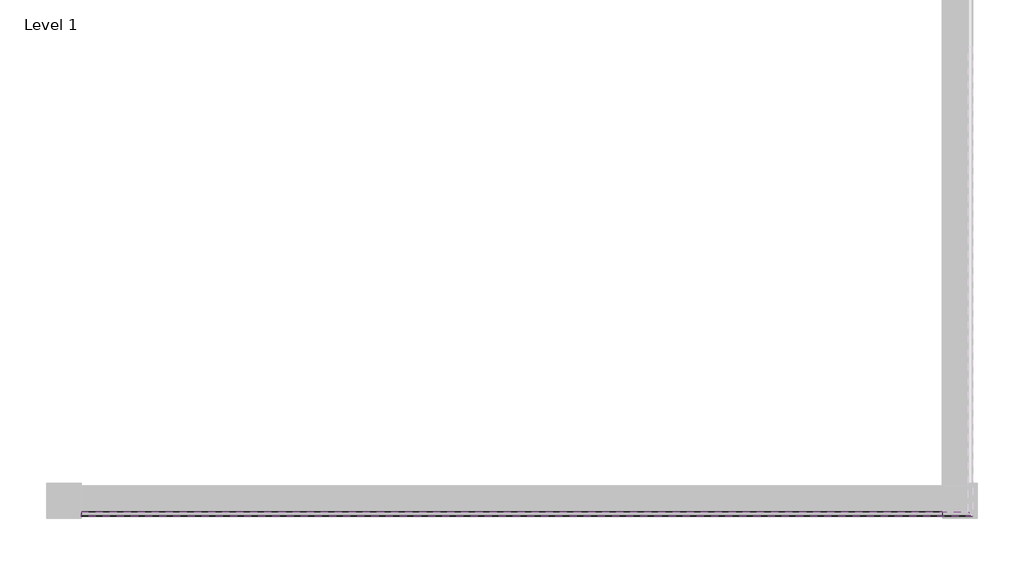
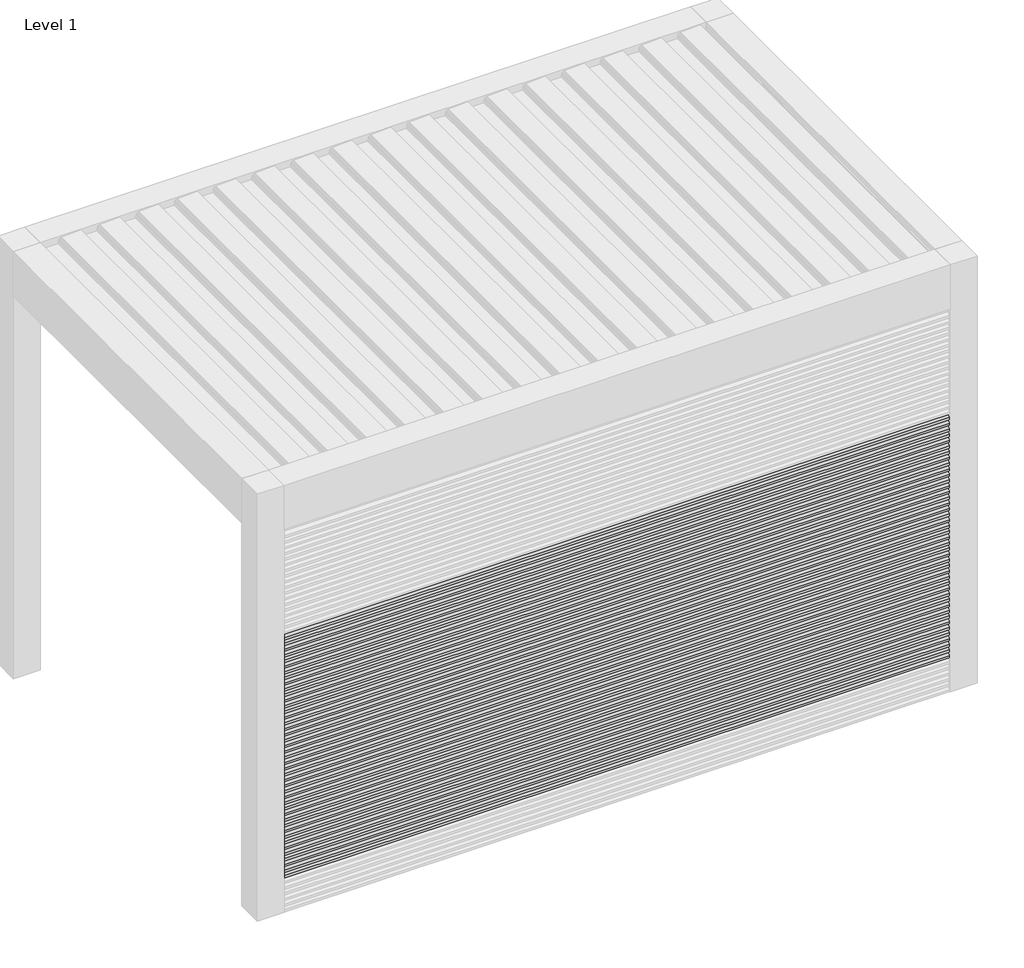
# One storey, part 58 of 69: 43 proxies.
"""IFC4 building model written with IfcOpenShell, lengths in millimetres."""

from ifc_helpers import new_model, si_unit, origin, place, context, project, spatial, faceted_brep, element, save

model = new_model("IFC4")

# Units and contexts
model_context = context("Model", 3, world=origin())
ifc_project = project(units=[si_unit("LENGTHUNIT", "METRE", prefix="MILLI")], contexts=[model_context])

# Site, building, storey
site = spatial("IfcSite", under=ifc_project)
building = spatial("IfcBuilding", under=site)
storey = spatial("IfcBuildingStorey", under=building, Name="Level 1", Elevation=0.0)

# Proxies
placement = place(None, origin())
element("IfcBuildingElementProxy", 1, Name="Wall Sweeps", at=placement, inside=storey, context=model_context, shape_type="Brep", body=[
    faceted_brep([(210955.4900207, 39530.7593685, 1607.7), (210955.4900207, 39530.7593685, 1594.2), (210954.2400207, 39532.0093685, 1594.9216933), (210954.2400207, 39532.0093685, 1606.9782281), (210935.0900207, 39551.1593685, 1618.0345698), (210935.0900207, 39551.1593685, 1631.7), (210936.3400207, 39549.9093685, 1631.7), (210936.3400207, 39549.9093685, 1618.7562577), (207125.5749426, 39530.7593685, 1607.7), (207125.5749426, 39549.9093685, 1618.7562577), (207125.5749426, 39549.9093685, 1631.7), (207125.5749426, 39551.1593685, 1631.7), (207125.5749426, 39551.1593685, 1618.0345698), (207125.5749426, 39532.0093685, 1606.9782281), (207125.5749426, 39532.0093685, 1594.9216933), (207125.5749426, 39530.7593685, 1594.2)], [[[0, 1, 2, 3, 4, 5, 6, 7]], [[8, 9, 10, 11, 12, 13, 14, 15]], [[0, 7, 9, 8]], [[7, 6, 10, 9]], [[6, 5, 11, 10]], [[5, 4, 12, 11]], [[4, 3, 13, 12]], [[3, 2, 14, 13]], [[2, 1, 15, 14]], [[1, 0, 8, 15]]]),
])
element("IfcBuildingElementProxy", 2, Name="Wall Sweeps", at=placement, inside=storey, context=model_context, shape_type="Brep", body=[
    faceted_brep([(210955.4900207, 39530.7593685, 1574.4), (210955.4900207, 39530.7593685, 1560.9), (210954.2400207, 39532.0093685, 1561.6216933), (210954.2400207, 39532.0093685, 1573.6782281), (210935.0900207, 39551.1593685, 1584.7345698), (210935.0900207, 39551.1593685, 1598.4), (210936.3400207, 39549.9093685, 1598.4), (210936.3400207, 39549.9093685, 1585.4562577), (207125.5749426, 39530.7593685, 1574.4), (207125.5749426, 39549.9093685, 1585.4562577), (207125.5749426, 39549.9093685, 1598.4), (207125.5749426, 39551.1593685, 1598.4), (207125.5749426, 39551.1593685, 1584.7345698), (207125.5749426, 39532.0093685, 1573.6782281), (207125.5749426, 39532.0093685, 1561.6216933), (207125.5749426, 39530.7593685, 1560.9)], [[[0, 1, 2, 3, 4, 5, 6, 7]], [[8, 9, 10, 11, 12, 13, 14, 15]], [[0, 7, 9, 8]], [[7, 6, 10, 9]], [[6, 5, 11, 10]], [[5, 4, 12, 11]], [[4, 3, 13, 12]], [[3, 2, 14, 13]], [[2, 1, 15, 14]], [[1, 0, 8, 15]]]),
])
element("IfcBuildingElementProxy", 3, Name="Wall Sweeps", at=placement, inside=storey, context=model_context, shape_type="Brep", body=[
    faceted_brep([(210955.4900207, 39530.7593685, 1541.1), (210955.4900207, 39530.7593685, 1527.6), (210954.2400207, 39532.0093685, 1528.3216933), (210954.2400207, 39532.0093685, 1540.3782281), (210935.0900207, 39551.1593685, 1551.4345698), (210935.0900207, 39551.1593685, 1565.1), (210936.3400207, 39549.9093685, 1565.1), (210936.3400207, 39549.9093685, 1552.1562577), (207125.5749426, 39530.7593685, 1541.1), (207125.5749426, 39549.9093685, 1552.1562577), (207125.5749426, 39549.9093685, 1565.1), (207125.5749426, 39551.1593685, 1565.1), (207125.5749426, 39551.1593685, 1551.4345698), (207125.5749426, 39532.0093685, 1540.3782281), (207125.5749426, 39532.0093685, 1528.3216933), (207125.5749426, 39530.7593685, 1527.6)], [[[0, 1, 2, 3, 4, 5, 6, 7]], [[8, 9, 10, 11, 12, 13, 14, 15]], [[0, 7, 9, 8]], [[7, 6, 10, 9]], [[6, 5, 11, 10]], [[5, 4, 12, 11]], [[4, 3, 13, 12]], [[3, 2, 14, 13]], [[2, 1, 15, 14]], [[1, 0, 8, 15]]]),
])
element("IfcBuildingElementProxy", 4, Name="Wall Sweeps", at=placement, inside=storey, context=model_context, shape_type="Brep", body=[
    faceted_brep([(210955.4900207, 39530.7593685, 1507.8), (210955.4900207, 39530.7593685, 1494.3), (210954.2400207, 39532.0093685, 1495.0216933), (210954.2400207, 39532.0093685, 1507.0782281), (210935.0900207, 39551.1593685, 1518.1345698), (210935.0900207, 39551.1593685, 1531.8), (210936.3400207, 39549.9093685, 1531.8), (210936.3400207, 39549.9093685, 1518.8562577), (207125.5749426, 39530.7593685, 1507.8), (207125.5749426, 39549.9093685, 1518.8562577), (207125.5749426, 39549.9093685, 1531.8), (207125.5749426, 39551.1593685, 1531.8), (207125.5749426, 39551.1593685, 1518.1345698), (207125.5749426, 39532.0093685, 1507.0782281), (207125.5749426, 39532.0093685, 1495.0216933), (207125.5749426, 39530.7593685, 1494.3)], [[[0, 1, 2, 3, 4, 5, 6, 7]], [[8, 9, 10, 11, 12, 13, 14, 15]], [[0, 7, 9, 8]], [[7, 6, 10, 9]], [[6, 5, 11, 10]], [[5, 4, 12, 11]], [[4, 3, 13, 12]], [[3, 2, 14, 13]], [[2, 1, 15, 14]], [[1, 0, 8, 15]]]),
])
element("IfcBuildingElementProxy", 5, Name="Wall Sweeps", at=placement, inside=storey, context=model_context, shape_type="Brep", body=[
    faceted_brep([(210955.4900207, 39530.7593685, 1474.5), (210955.4900207, 39530.7593685, 1461.0), (210954.2400207, 39532.0093685, 1461.7216933), (210954.2400207, 39532.0093685, 1473.7782281), (210935.0900207, 39551.1593685, 1484.8345698), (210935.0900207, 39551.1593685, 1498.5), (210936.3400207, 39549.9093685, 1498.5), (210936.3400207, 39549.9093685, 1485.5562577), (207125.5749426, 39530.7593685, 1474.5), (207125.5749426, 39549.9093685, 1485.5562577), (207125.5749426, 39549.9093685, 1498.5), (207125.5749426, 39551.1593685, 1498.5), (207125.5749426, 39551.1593685, 1484.8345698), (207125.5749426, 39532.0093685, 1473.7782281), (207125.5749426, 39532.0093685, 1461.7216933), (207125.5749426, 39530.7593685, 1461.0)], [[[0, 1, 2, 3, 4, 5, 6, 7]], [[8, 9, 10, 11, 12, 13, 14, 15]], [[0, 7, 9, 8]], [[7, 6, 10, 9]], [[6, 5, 11, 10]], [[5, 4, 12, 11]], [[4, 3, 13, 12]], [[3, 2, 14, 13]], [[2, 1, 15, 14]], [[1, 0, 8, 15]]]),
])
element("IfcBuildingElementProxy", 6, Name="Wall Sweeps", at=placement, inside=storey, context=model_context, shape_type="Brep", body=[
    faceted_brep([(210955.4900207, 39530.7593685, 1441.2), (210955.4900207, 39530.7593685, 1427.7), (210954.2400207, 39532.0093685, 1428.4216933), (210954.2400207, 39532.0093685, 1440.4782281), (210935.0900207, 39551.1593685, 1451.5345698), (210935.0900207, 39551.1593685, 1465.2), (210936.3400207, 39549.9093685, 1465.2), (210936.3400207, 39549.9093685, 1452.2562577), (207125.5749426, 39530.7593685, 1441.2), (207125.5749426, 39549.9093685, 1452.2562577), (207125.5749426, 39549.9093685, 1465.2), (207125.5749426, 39551.1593685, 1465.2), (207125.5749426, 39551.1593685, 1451.5345698), (207125.5749426, 39532.0093685, 1440.4782281), (207125.5749426, 39532.0093685, 1428.4216933), (207125.5749426, 39530.7593685, 1427.7)], [[[0, 1, 2, 3, 4, 5, 6, 7]], [[8, 9, 10, 11, 12, 13, 14, 15]], [[0, 7, 9, 8]], [[7, 6, 10, 9]], [[6, 5, 11, 10]], [[5, 4, 12, 11]], [[4, 3, 13, 12]], [[3, 2, 14, 13]], [[2, 1, 15, 14]], [[1, 0, 8, 15]]]),
])
element("IfcBuildingElementProxy", 7, Name="Wall Sweeps", at=placement, inside=storey, context=model_context, shape_type="Brep", body=[
    faceted_brep([(210955.4900207, 39530.7593685, 1407.9), (210955.4900207, 39530.7593685, 1394.4), (210954.2400207, 39532.0093685, 1395.1216933), (210954.2400207, 39532.0093685, 1407.1782281), (210935.0900207, 39551.1593685, 1418.2345698), (210935.0900207, 39551.1593685, 1431.9), (210936.3400207, 39549.9093685, 1431.9), (210936.3400207, 39549.9093685, 1418.9562577), (207125.5749426, 39530.7593685, 1407.9), (207125.5749426, 39549.9093685, 1418.9562577), (207125.5749426, 39549.9093685, 1431.9), (207125.5749426, 39551.1593685, 1431.9), (207125.5749426, 39551.1593685, 1418.2345698), (207125.5749426, 39532.0093685, 1407.1782281), (207125.5749426, 39532.0093685, 1395.1216933), (207125.5749426, 39530.7593685, 1394.4)], [[[0, 1, 2, 3, 4, 5, 6, 7]], [[8, 9, 10, 11, 12, 13, 14, 15]], [[0, 7, 9, 8]], [[7, 6, 10, 9]], [[6, 5, 11, 10]], [[5, 4, 12, 11]], [[4, 3, 13, 12]], [[3, 2, 14, 13]], [[2, 1, 15, 14]], [[1, 0, 8, 15]]]),
])
element("IfcBuildingElementProxy", 8, Name="Wall Sweeps", at=placement, inside=storey, context=model_context, shape_type="Brep", body=[
    faceted_brep([(210955.4900207, 39530.7593685, 1374.6), (210955.4900207, 39530.7593685, 1361.1), (210954.2400207, 39532.0093685, 1361.8216933), (210954.2400207, 39532.0093685, 1373.8782281), (210935.0900207, 39551.1593685, 1384.9345698), (210935.0900207, 39551.1593685, 1398.6), (210936.3400207, 39549.9093685, 1398.6), (210936.3400207, 39549.9093685, 1385.6562577), (207125.5749426, 39530.7593685, 1374.6), (207125.5749426, 39549.9093685, 1385.6562577), (207125.5749426, 39549.9093685, 1398.6), (207125.5749426, 39551.1593685, 1398.6), (207125.5749426, 39551.1593685, 1384.9345698), (207125.5749426, 39532.0093685, 1373.8782281), (207125.5749426, 39532.0093685, 1361.8216933), (207125.5749426, 39530.7593685, 1361.1)], [[[0, 1, 2, 3, 4, 5, 6, 7]], [[8, 9, 10, 11, 12, 13, 14, 15]], [[0, 7, 9, 8]], [[7, 6, 10, 9]], [[6, 5, 11, 10]], [[5, 4, 12, 11]], [[4, 3, 13, 12]], [[3, 2, 14, 13]], [[2, 1, 15, 14]], [[1, 0, 8, 15]]]),
])
element("IfcBuildingElementProxy", 9, Name="Wall Sweeps", at=placement, inside=storey, context=model_context, shape_type="Brep", body=[
    faceted_brep([(210955.4900207, 39530.7593685, 1341.3), (210955.4900207, 39530.7593685, 1327.8), (210954.2400207, 39532.0093685, 1328.5216933), (210954.2400207, 39532.0093685, 1340.5782281), (210935.0900207, 39551.1593685, 1351.6345698), (210935.0900207, 39551.1593685, 1365.3), (210936.3400207, 39549.9093685, 1365.3), (210936.3400207, 39549.9093685, 1352.3562577), (207125.5749426, 39530.7593685, 1341.3), (207125.5749426, 39549.9093685, 1352.3562577), (207125.5749426, 39549.9093685, 1365.3), (207125.5749426, 39551.1593685, 1365.3), (207125.5749426, 39551.1593685, 1351.6345698), (207125.5749426, 39532.0093685, 1340.5782281), (207125.5749426, 39532.0093685, 1328.5216933), (207125.5749426, 39530.7593685, 1327.8)], [[[0, 1, 2, 3, 4, 5, 6, 7]], [[8, 9, 10, 11, 12, 13, 14, 15]], [[0, 7, 9, 8]], [[7, 6, 10, 9]], [[6, 5, 11, 10]], [[5, 4, 12, 11]], [[4, 3, 13, 12]], [[3, 2, 14, 13]], [[2, 1, 15, 14]], [[1, 0, 8, 15]]]),
])
element("IfcBuildingElementProxy", 10, Name="Wall Sweeps", at=placement, inside=storey, context=model_context, shape_type="Brep", body=[
    faceted_brep([(210955.4900207, 39530.7593685, 1308.0), (210955.4900207, 39530.7593685, 1294.5), (210954.2400207, 39532.0093685, 1295.2216933), (210954.2400207, 39532.0093685, 1307.2782281), (210935.0900207, 39551.1593685, 1318.3345698), (210935.0900207, 39551.1593685, 1332.0), (210936.3400207, 39549.9093685, 1332.0), (210936.3400207, 39549.9093685, 1319.0562577), (207125.5749426, 39530.7593685, 1308.0), (207125.5749426, 39549.9093685, 1319.0562577), (207125.5749426, 39549.9093685, 1332.0), (207125.5749426, 39551.1593685, 1332.0), (207125.5749426, 39551.1593685, 1318.3345698), (207125.5749426, 39532.0093685, 1307.2782281), (207125.5749426, 39532.0093685, 1295.2216933), (207125.5749426, 39530.7593685, 1294.5)], [[[0, 1, 2, 3, 4, 5, 6, 7]], [[8, 9, 10, 11, 12, 13, 14, 15]], [[0, 7, 9, 8]], [[7, 6, 10, 9]], [[6, 5, 11, 10]], [[5, 4, 12, 11]], [[4, 3, 13, 12]], [[3, 2, 14, 13]], [[2, 1, 15, 14]], [[1, 0, 8, 15]]]),
])
element("IfcBuildingElementProxy", 11, Name="Wall Sweeps", at=placement, inside=storey, context=model_context, shape_type="Brep", body=[
    faceted_brep([(210955.4900207, 39530.7593685, 1274.7), (210955.4900207, 39530.7593685, 1261.2), (210954.2400207, 39532.0093685, 1261.9216933), (210954.2400207, 39532.0093685, 1273.9782281), (210935.0900207, 39551.1593685, 1285.0345698), (210935.0900207, 39551.1593685, 1298.7), (210936.3400207, 39549.9093685, 1298.7), (210936.3400207, 39549.9093685, 1285.7562577), (207125.5749426, 39530.7593685, 1274.7), (207125.5749426, 39549.9093685, 1285.7562577), (207125.5749426, 39549.9093685, 1298.7), (207125.5749426, 39551.1593685, 1298.7), (207125.5749426, 39551.1593685, 1285.0345698), (207125.5749426, 39532.0093685, 1273.9782281), (207125.5749426, 39532.0093685, 1261.9216933), (207125.5749426, 39530.7593685, 1261.2)], [[[0, 1, 2, 3, 4, 5, 6, 7]], [[8, 9, 10, 11, 12, 13, 14, 15]], [[0, 7, 9, 8]], [[7, 6, 10, 9]], [[6, 5, 11, 10]], [[5, 4, 12, 11]], [[4, 3, 13, 12]], [[3, 2, 14, 13]], [[2, 1, 15, 14]], [[1, 0, 8, 15]]]),
])
element("IfcBuildingElementProxy", 12, Name="Wall Sweeps", at=placement, inside=storey, context=model_context, shape_type="Brep", body=[
    faceted_brep([(210955.4900207, 39530.7593685, 1241.4), (210955.4900207, 39530.7593685, 1227.9), (210954.2400207, 39532.0093685, 1228.6216933), (210954.2400207, 39532.0093685, 1240.6782281), (210935.0900207, 39551.1593685, 1251.7345698), (210935.0900207, 39551.1593685, 1265.4), (210936.3400207, 39549.9093685, 1265.4), (210936.3400207, 39549.9093685, 1252.4562577), (207125.5749426, 39530.7593685, 1241.4), (207125.5749426, 39549.9093685, 1252.4562577), (207125.5749426, 39549.9093685, 1265.4), (207125.5749426, 39551.1593685, 1265.4), (207125.5749426, 39551.1593685, 1251.7345698), (207125.5749426, 39532.0093685, 1240.6782281), (207125.5749426, 39532.0093685, 1228.6216933), (207125.5749426, 39530.7593685, 1227.9)], [[[0, 1, 2, 3, 4, 5, 6, 7]], [[8, 9, 10, 11, 12, 13, 14, 15]], [[0, 7, 9, 8]], [[7, 6, 10, 9]], [[6, 5, 11, 10]], [[5, 4, 12, 11]], [[4, 3, 13, 12]], [[3, 2, 14, 13]], [[2, 1, 15, 14]], [[1, 0, 8, 15]]]),
])
element("IfcBuildingElementProxy", 13, Name="Wall Sweeps", at=placement, inside=storey, context=model_context, shape_type="Brep", body=[
    faceted_brep([(210955.4900207, 39530.7593685, 1208.1), (210955.4900207, 39530.7593685, 1194.6), (210954.2400207, 39532.0093685, 1195.3216933), (210954.2400207, 39532.0093685, 1207.3782281), (210935.0900207, 39551.1593685, 1218.4345698), (210935.0900207, 39551.1593685, 1232.1), (210936.3400207, 39549.9093685, 1232.1), (210936.3400207, 39549.9093685, 1219.1562577), (207125.5749426, 39530.7593685, 1208.1), (207125.5749426, 39549.9093685, 1219.1562577), (207125.5749426, 39549.9093685, 1232.1), (207125.5749426, 39551.1593685, 1232.1), (207125.5749426, 39551.1593685, 1218.4345698), (207125.5749426, 39532.0093685, 1207.3782281), (207125.5749426, 39532.0093685, 1195.3216933), (207125.5749426, 39530.7593685, 1194.6)], [[[0, 1, 2, 3, 4, 5, 6, 7]], [[8, 9, 10, 11, 12, 13, 14, 15]], [[0, 7, 9, 8]], [[7, 6, 10, 9]], [[6, 5, 11, 10]], [[5, 4, 12, 11]], [[4, 3, 13, 12]], [[3, 2, 14, 13]], [[2, 1, 15, 14]], [[1, 0, 8, 15]]]),
])
element("IfcBuildingElementProxy", 14, Name="Wall Sweeps", at=placement, inside=storey, context=model_context, shape_type="Brep", body=[
    faceted_brep([(210955.4900207, 39530.7593685, 1174.8), (210955.4900207, 39530.7593685, 1161.3), (210954.2400207, 39532.0093685, 1162.0216933), (210954.2400207, 39532.0093685, 1174.0782281), (210935.0900207, 39551.1593685, 1185.1345698), (210935.0900207, 39551.1593685, 1198.8), (210936.3400207, 39549.9093685, 1198.8), (210936.3400207, 39549.9093685, 1185.8562577), (207125.5749426, 39530.7593685, 1174.8), (207125.5749426, 39549.9093685, 1185.8562577), (207125.5749426, 39549.9093685, 1198.8), (207125.5749426, 39551.1593685, 1198.8), (207125.5749426, 39551.1593685, 1185.1345698), (207125.5749426, 39532.0093685, 1174.0782281), (207125.5749426, 39532.0093685, 1162.0216933), (207125.5749426, 39530.7593685, 1161.3)], [[[0, 1, 2, 3, 4, 5, 6, 7]], [[8, 9, 10, 11, 12, 13, 14, 15]], [[0, 7, 9, 8]], [[7, 6, 10, 9]], [[6, 5, 11, 10]], [[5, 4, 12, 11]], [[4, 3, 13, 12]], [[3, 2, 14, 13]], [[2, 1, 15, 14]], [[1, 0, 8, 15]]]),
])
element("IfcBuildingElementProxy", 15, Name="Wall Sweeps", at=placement, inside=storey, context=model_context, shape_type="Brep", body=[
    faceted_brep([(210955.4900207, 39530.7593685, 1141.5), (210955.4900207, 39530.7593685, 1128.0), (210954.2400207, 39532.0093685, 1128.7216933), (210954.2400207, 39532.0093685, 1140.7782281), (210935.0900207, 39551.1593685, 1151.8345698), (210935.0900207, 39551.1593685, 1165.5), (210936.3400207, 39549.9093685, 1165.5), (210936.3400207, 39549.9093685, 1152.5562577), (207125.5749426, 39530.7593685, 1141.5), (207125.5749426, 39549.9093685, 1152.5562577), (207125.5749426, 39549.9093685, 1165.5), (207125.5749426, 39551.1593685, 1165.5), (207125.5749426, 39551.1593685, 1151.8345698), (207125.5749426, 39532.0093685, 1140.7782281), (207125.5749426, 39532.0093685, 1128.7216933), (207125.5749426, 39530.7593685, 1128.0)], [[[0, 1, 2, 3, 4, 5, 6, 7]], [[8, 9, 10, 11, 12, 13, 14, 15]], [[0, 7, 9, 8]], [[7, 6, 10, 9]], [[6, 5, 11, 10]], [[5, 4, 12, 11]], [[4, 3, 13, 12]], [[3, 2, 14, 13]], [[2, 1, 15, 14]], [[1, 0, 8, 15]]]),
])
element("IfcBuildingElementProxy", 16, Name="Wall Sweeps", at=placement, inside=storey, context=model_context, shape_type="Brep", body=[
    faceted_brep([(210955.4900207, 39530.7593685, 1108.2), (210955.4900207, 39530.7593685, 1094.7), (210954.2400207, 39532.0093685, 1095.4216933), (210954.2400207, 39532.0093685, 1107.4782281), (210935.0900207, 39551.1593685, 1118.5345698), (210935.0900207, 39551.1593685, 1132.2), (210936.3400207, 39549.9093685, 1132.2), (210936.3400207, 39549.9093685, 1119.2562577), (207125.5749426, 39530.7593685, 1108.2), (207125.5749426, 39549.9093685, 1119.2562577), (207125.5749426, 39549.9093685, 1132.2), (207125.5749426, 39551.1593685, 1132.2), (207125.5749426, 39551.1593685, 1118.5345698), (207125.5749426, 39532.0093685, 1107.4782281), (207125.5749426, 39532.0093685, 1095.4216933), (207125.5749426, 39530.7593685, 1094.7)], [[[0, 1, 2, 3, 4, 5, 6, 7]], [[8, 9, 10, 11, 12, 13, 14, 15]], [[0, 7, 9, 8]], [[7, 6, 10, 9]], [[6, 5, 11, 10]], [[5, 4, 12, 11]], [[4, 3, 13, 12]], [[3, 2, 14, 13]], [[2, 1, 15, 14]], [[1, 0, 8, 15]]]),
])
element("IfcBuildingElementProxy", 17, Name="Wall Sweeps", at=placement, inside=storey, context=model_context, shape_type="Brep", body=[
    faceted_brep([(210955.4900207, 39530.7593685, 1074.9), (210955.4900207, 39530.7593685, 1061.4), (210954.2400207, 39532.0093685, 1062.1216933), (210954.2400207, 39532.0093685, 1074.1782281), (210935.0900207, 39551.1593685, 1085.2345698), (210935.0900207, 39551.1593685, 1098.9), (210936.3400207, 39549.9093685, 1098.9), (210936.3400207, 39549.9093685, 1085.9562577), (207125.5749426, 39530.7593685, 1074.9), (207125.5749426, 39549.9093685, 1085.9562577), (207125.5749426, 39549.9093685, 1098.9), (207125.5749426, 39551.1593685, 1098.9), (207125.5749426, 39551.1593685, 1085.2345698), (207125.5749426, 39532.0093685, 1074.1782281), (207125.5749426, 39532.0093685, 1062.1216933), (207125.5749426, 39530.7593685, 1061.4)], [[[0, 1, 2, 3, 4, 5, 6, 7]], [[8, 9, 10, 11, 12, 13, 14, 15]], [[0, 7, 9, 8]], [[7, 6, 10, 9]], [[6, 5, 11, 10]], [[5, 4, 12, 11]], [[4, 3, 13, 12]], [[3, 2, 14, 13]], [[2, 1, 15, 14]], [[1, 0, 8, 15]]]),
])
element("IfcBuildingElementProxy", 18, Name="Wall Sweeps", at=placement, inside=storey, context=model_context, shape_type="Brep", body=[
    faceted_brep([(210955.4900207, 39530.7593685, 1041.6), (210955.4900207, 39530.7593685, 1028.1), (210954.2400207, 39532.0093685, 1028.8216933), (210954.2400207, 39532.0093685, 1040.8782281), (210935.0900207, 39551.1593685, 1051.9345698), (210935.0900207, 39551.1593685, 1065.6), (210936.3400207, 39549.9093685, 1065.6), (210936.3400207, 39549.9093685, 1052.6562577), (207125.5749426, 39530.7593685, 1041.6), (207125.5749426, 39549.9093685, 1052.6562577), (207125.5749426, 39549.9093685, 1065.6), (207125.5749426, 39551.1593685, 1065.6), (207125.5749426, 39551.1593685, 1051.9345698), (207125.5749426, 39532.0093685, 1040.8782281), (207125.5749426, 39532.0093685, 1028.8216933), (207125.5749426, 39530.7593685, 1028.1)], [[[0, 1, 2, 3, 4, 5, 6, 7]], [[8, 9, 10, 11, 12, 13, 14, 15]], [[0, 7, 9, 8]], [[7, 6, 10, 9]], [[6, 5, 11, 10]], [[5, 4, 12, 11]], [[4, 3, 13, 12]], [[3, 2, 14, 13]], [[2, 1, 15, 14]], [[1, 0, 8, 15]]]),
])
element("IfcBuildingElementProxy", 19, Name="Wall Sweeps", at=placement, inside=storey, context=model_context, shape_type="Brep", body=[
    faceted_brep([(210955.4900207, 39530.7593685, 1008.3), (210955.4900207, 39530.7593685, 994.8), (210954.2400207, 39532.0093685, 995.5216933), (210954.2400207, 39532.0093685, 1007.5782281), (210935.0900207, 39551.1593685, 1018.6345698), (210935.0900207, 39551.1593685, 1032.3), (210936.3400207, 39549.9093685, 1032.3), (210936.3400207, 39549.9093685, 1019.3562577), (207125.5749426, 39530.7593685, 1008.3), (207125.5749426, 39549.9093685, 1019.3562577), (207125.5749426, 39549.9093685, 1032.3), (207125.5749426, 39551.1593685, 1032.3), (207125.5749426, 39551.1593685, 1018.6345698), (207125.5749426, 39532.0093685, 1007.5782281), (207125.5749426, 39532.0093685, 995.5216933), (207125.5749426, 39530.7593685, 994.8)], [[[0, 1, 2, 3, 4, 5, 6, 7]], [[8, 9, 10, 11, 12, 13, 14, 15]], [[0, 7, 9, 8]], [[7, 6, 10, 9]], [[6, 5, 11, 10]], [[5, 4, 12, 11]], [[4, 3, 13, 12]], [[3, 2, 14, 13]], [[2, 1, 15, 14]], [[1, 0, 8, 15]]]),
])
element("IfcBuildingElementProxy", 20, Name="Wall Sweeps", at=placement, inside=storey, context=model_context, shape_type="Brep", body=[
    faceted_brep([(210955.4900207, 39530.7593685, 975.0), (210955.4900207, 39530.7593685, 961.5), (210954.2400207, 39532.0093685, 962.2216933), (210954.2400207, 39532.0093685, 974.2782281), (210935.0900207, 39551.1593685, 985.3345698), (210935.0900207, 39551.1593685, 999.0), (210936.3400207, 39549.9093685, 999.0), (210936.3400207, 39549.9093685, 986.0562577), (207125.5749426, 39530.7593685, 975.0), (207125.5749426, 39549.9093685, 986.0562577), (207125.5749426, 39549.9093685, 999.0), (207125.5749426, 39551.1593685, 999.0), (207125.5749426, 39551.1593685, 985.3345698), (207125.5749426, 39532.0093685, 974.2782281), (207125.5749426, 39532.0093685, 962.2216933), (207125.5749426, 39530.7593685, 961.5)], [[[0, 1, 2, 3, 4, 5, 6, 7]], [[8, 9, 10, 11, 12, 13, 14, 15]], [[0, 7, 9, 8]], [[7, 6, 10, 9]], [[6, 5, 11, 10]], [[5, 4, 12, 11]], [[4, 3, 13, 12]], [[3, 2, 14, 13]], [[2, 1, 15, 14]], [[1, 0, 8, 15]]]),
])
element("IfcBuildingElementProxy", 21, Name="Wall Sweeps", at=placement, inside=storey, context=model_context, shape_type="Brep", body=[
    faceted_brep([(210955.4900207, 39530.7593685, 941.7), (210955.4900207, 39530.7593685, 928.2), (210954.2400207, 39532.0093685, 928.9216933), (210954.2400207, 39532.0093685, 940.9782281), (210935.0900207, 39551.1593685, 952.0345698), (210935.0900207, 39551.1593685, 965.7), (210936.3400207, 39549.9093685, 965.7), (210936.3400207, 39549.9093685, 952.7562577), (207125.5749426, 39530.7593685, 941.7), (207125.5749426, 39549.9093685, 952.7562577), (207125.5749426, 39549.9093685, 965.7), (207125.5749426, 39551.1593685, 965.7), (207125.5749426, 39551.1593685, 952.0345698), (207125.5749426, 39532.0093685, 940.9782281), (207125.5749426, 39532.0093685, 928.9216933), (207125.5749426, 39530.7593685, 928.2)], [[[0, 1, 2, 3, 4, 5, 6, 7]], [[8, 9, 10, 11, 12, 13, 14, 15]], [[0, 7, 9, 8]], [[7, 6, 10, 9]], [[6, 5, 11, 10]], [[5, 4, 12, 11]], [[4, 3, 13, 12]], [[3, 2, 14, 13]], [[2, 1, 15, 14]], [[1, 0, 8, 15]]]),
])
element("IfcBuildingElementProxy", 22, Name="Wall Sweeps", at=placement, inside=storey, context=model_context, shape_type="Brep", body=[
    faceted_brep([(210955.4900207, 39530.7593685, 908.4), (210955.4900207, 39530.7593685, 894.9), (210954.2400207, 39532.0093685, 895.6216933), (210954.2400207, 39532.0093685, 907.6782281), (210935.0900207, 39551.1593685, 918.7345698), (210935.0900207, 39551.1593685, 932.4), (210936.3400207, 39549.9093685, 932.4), (210936.3400207, 39549.9093685, 919.4562577), (207125.5749426, 39530.7593685, 908.4), (207125.5749426, 39549.9093685, 919.4562577), (207125.5749426, 39549.9093685, 932.4), (207125.5749426, 39551.1593685, 932.4), (207125.5749426, 39551.1593685, 918.7345698), (207125.5749426, 39532.0093685, 907.6782281), (207125.5749426, 39532.0093685, 895.6216933), (207125.5749426, 39530.7593685, 894.9)], [[[0, 1, 2, 3, 4, 5, 6, 7]], [[8, 9, 10, 11, 12, 13, 14, 15]], [[0, 7, 9, 8]], [[7, 6, 10, 9]], [[6, 5, 11, 10]], [[5, 4, 12, 11]], [[4, 3, 13, 12]], [[3, 2, 14, 13]], [[2, 1, 15, 14]], [[1, 0, 8, 15]]]),
])
element("IfcBuildingElementProxy", 23, Name="Wall Sweeps", at=placement, inside=storey, context=model_context, shape_type="Brep", body=[
    faceted_brep([(210955.4900207, 39530.7593685, 875.1), (210955.4900207, 39530.7593685, 861.6), (210954.2400207, 39532.0093685, 862.3216933), (210954.2400207, 39532.0093685, 874.3782281), (210935.0900207, 39551.1593685, 885.4345698), (210935.0900207, 39551.1593685, 899.1), (210936.3400207, 39549.9093685, 899.1), (210936.3400207, 39549.9093685, 886.1562577), (207125.5749426, 39530.7593685, 875.1), (207125.5749426, 39549.9093685, 886.1562577), (207125.5749426, 39549.9093685, 899.1), (207125.5749426, 39551.1593685, 899.1), (207125.5749426, 39551.1593685, 885.4345698), (207125.5749426, 39532.0093685, 874.3782281), (207125.5749426, 39532.0093685, 862.3216933), (207125.5749426, 39530.7593685, 861.6)], [[[0, 1, 2, 3, 4, 5, 6, 7]], [[8, 9, 10, 11, 12, 13, 14, 15]], [[0, 7, 9, 8]], [[7, 6, 10, 9]], [[6, 5, 11, 10]], [[5, 4, 12, 11]], [[4, 3, 13, 12]], [[3, 2, 14, 13]], [[2, 1, 15, 14]], [[1, 0, 8, 15]]]),
])
element("IfcBuildingElementProxy", 24, Name="Wall Sweeps", at=placement, inside=storey, context=model_context, shape_type="Brep", body=[
    faceted_brep([(210955.4900207, 39530.7593685, 841.8), (210955.4900207, 39530.7593685, 828.3), (210954.2400207, 39532.0093685, 829.0216933), (210954.2400207, 39532.0093685, 841.0782281), (210935.0900207, 39551.1593685, 852.1345698), (210935.0900207, 39551.1593685, 865.8), (210936.3400207, 39549.9093685, 865.8), (210936.3400207, 39549.9093685, 852.8562577), (207125.5749426, 39530.7593685, 841.8), (207125.5749426, 39549.9093685, 852.8562577), (207125.5749426, 39549.9093685, 865.8), (207125.5749426, 39551.1593685, 865.8), (207125.5749426, 39551.1593685, 852.1345698), (207125.5749426, 39532.0093685, 841.0782281), (207125.5749426, 39532.0093685, 829.0216933), (207125.5749426, 39530.7593685, 828.3)], [[[0, 1, 2, 3, 4, 5, 6, 7]], [[8, 9, 10, 11, 12, 13, 14, 15]], [[0, 7, 9, 8]], [[7, 6, 10, 9]], [[6, 5, 11, 10]], [[5, 4, 12, 11]], [[4, 3, 13, 12]], [[3, 2, 14, 13]], [[2, 1, 15, 14]], [[1, 0, 8, 15]]]),
])
element("IfcBuildingElementProxy", 25, Name="Wall Sweeps", at=placement, inside=storey, context=model_context, shape_type="Brep", body=[
    faceted_brep([(210955.4900207, 39530.7593685, 808.5), (210955.4900207, 39530.7593685, 795.0), (210954.2400207, 39532.0093685, 795.7216933), (210954.2400207, 39532.0093685, 807.7782281), (210935.0900207, 39551.1593685, 818.8345698), (210935.0900207, 39551.1593685, 832.5), (210936.3400207, 39549.9093685, 832.5), (210936.3400207, 39549.9093685, 819.5562577), (207125.5749426, 39530.7593685, 808.5), (207125.5749426, 39549.9093685, 819.5562577), (207125.5749426, 39549.9093685, 832.5), (207125.5749426, 39551.1593685, 832.5), (207125.5749426, 39551.1593685, 818.8345698), (207125.5749426, 39532.0093685, 807.7782281), (207125.5749426, 39532.0093685, 795.7216933), (207125.5749426, 39530.7593685, 795.0)], [[[0, 1, 2, 3, 4, 5, 6, 7]], [[8, 9, 10, 11, 12, 13, 14, 15]], [[0, 7, 9, 8]], [[7, 6, 10, 9]], [[6, 5, 11, 10]], [[5, 4, 12, 11]], [[4, 3, 13, 12]], [[3, 2, 14, 13]], [[2, 1, 15, 14]], [[1, 0, 8, 15]]]),
])
element("IfcBuildingElementProxy", 26, Name="Wall Sweeps", at=placement, inside=storey, context=model_context, shape_type="Brep", body=[
    faceted_brep([(210955.4900207, 39530.7593685, 775.2), (210955.4900207, 39530.7593685, 761.7), (210954.2400207, 39532.0093685, 762.4216933), (210954.2400207, 39532.0093685, 774.4782281), (210935.0900207, 39551.1593685, 785.5345698), (210935.0900207, 39551.1593685, 799.2), (210936.3400207, 39549.9093685, 799.2), (210936.3400207, 39549.9093685, 786.2562577), (207125.5749426, 39530.7593685, 775.2), (207125.5749426, 39549.9093685, 786.2562577), (207125.5749426, 39549.9093685, 799.2), (207125.5749426, 39551.1593685, 799.2), (207125.5749426, 39551.1593685, 785.5345698), (207125.5749426, 39532.0093685, 774.4782281), (207125.5749426, 39532.0093685, 762.4216933), (207125.5749426, 39530.7593685, 761.7)], [[[0, 1, 2, 3, 4, 5, 6, 7]], [[8, 9, 10, 11, 12, 13, 14, 15]], [[0, 7, 9, 8]], [[7, 6, 10, 9]], [[6, 5, 11, 10]], [[5, 4, 12, 11]], [[4, 3, 13, 12]], [[3, 2, 14, 13]], [[2, 1, 15, 14]], [[1, 0, 8, 15]]]),
])
element("IfcBuildingElementProxy", 27, Name="Wall Sweeps", at=placement, inside=storey, context=model_context, shape_type="Brep", body=[
    faceted_brep([(210955.4900207, 39530.7593685, 741.9), (210955.4900207, 39530.7593685, 728.4), (210954.2400207, 39532.0093685, 729.1216933), (210954.2400207, 39532.0093685, 741.1782281), (210935.0900207, 39551.1593685, 752.2345698), (210935.0900207, 39551.1593685, 765.9), (210936.3400207, 39549.9093685, 765.9), (210936.3400207, 39549.9093685, 752.9562577), (207125.5749426, 39530.7593685, 741.9), (207125.5749426, 39549.9093685, 752.9562577), (207125.5749426, 39549.9093685, 765.9), (207125.5749426, 39551.1593685, 765.9), (207125.5749426, 39551.1593685, 752.2345698), (207125.5749426, 39532.0093685, 741.1782281), (207125.5749426, 39532.0093685, 729.1216933), (207125.5749426, 39530.7593685, 728.4)], [[[0, 1, 2, 3, 4, 5, 6, 7]], [[8, 9, 10, 11, 12, 13, 14, 15]], [[0, 7, 9, 8]], [[7, 6, 10, 9]], [[6, 5, 11, 10]], [[5, 4, 12, 11]], [[4, 3, 13, 12]], [[3, 2, 14, 13]], [[2, 1, 15, 14]], [[1, 0, 8, 15]]]),
])
element("IfcBuildingElementProxy", 28, Name="Wall Sweeps", at=placement, inside=storey, context=model_context, shape_type="Brep", body=[
    faceted_brep([(210955.4900207, 39530.7593685, 708.6), (210955.4900207, 39530.7593685, 695.1), (210954.2400207, 39532.0093685, 695.8216933), (210954.2400207, 39532.0093685, 707.8782281), (210935.0900207, 39551.1593685, 718.9345698), (210935.0900207, 39551.1593685, 732.6), (210936.3400207, 39549.9093685, 732.6), (210936.3400207, 39549.9093685, 719.6562577), (207125.5749426, 39530.7593685, 708.6), (207125.5749426, 39549.9093685, 719.6562577), (207125.5749426, 39549.9093685, 732.6), (207125.5749426, 39551.1593685, 732.6), (207125.5749426, 39551.1593685, 718.9345698), (207125.5749426, 39532.0093685, 707.8782281), (207125.5749426, 39532.0093685, 695.8216933), (207125.5749426, 39530.7593685, 695.1)], [[[0, 1, 2, 3, 4, 5, 6, 7]], [[8, 9, 10, 11, 12, 13, 14, 15]], [[0, 7, 9, 8]], [[7, 6, 10, 9]], [[6, 5, 11, 10]], [[5, 4, 12, 11]], [[4, 3, 13, 12]], [[3, 2, 14, 13]], [[2, 1, 15, 14]], [[1, 0, 8, 15]]]),
])
element("IfcBuildingElementProxy", 29, Name="Wall Sweeps", at=placement, inside=storey, context=model_context, shape_type="Brep", body=[
    faceted_brep([(210955.4900207, 39530.7593685, 675.3), (210955.4900207, 39530.7593685, 661.8), (210954.2400207, 39532.0093685, 662.5216933), (210954.2400207, 39532.0093685, 674.5782281), (210935.0900207, 39551.1593685, 685.6345698), (210935.0900207, 39551.1593685, 699.3), (210936.3400207, 39549.9093685, 699.3), (210936.3400207, 39549.9093685, 686.3562577), (207125.5749426, 39530.7593685, 675.3), (207125.5749426, 39549.9093685, 686.3562577), (207125.5749426, 39549.9093685, 699.3), (207125.5749426, 39551.1593685, 699.3), (207125.5749426, 39551.1593685, 685.6345698), (207125.5749426, 39532.0093685, 674.5782281), (207125.5749426, 39532.0093685, 662.5216933), (207125.5749426, 39530.7593685, 661.8)], [[[0, 1, 2, 3, 4, 5, 6, 7]], [[8, 9, 10, 11, 12, 13, 14, 15]], [[0, 7, 9, 8]], [[7, 6, 10, 9]], [[6, 5, 11, 10]], [[5, 4, 12, 11]], [[4, 3, 13, 12]], [[3, 2, 14, 13]], [[2, 1, 15, 14]], [[1, 0, 8, 15]]]),
])
element("IfcBuildingElementProxy", 30, Name="Wall Sweeps", at=placement, inside=storey, context=model_context, shape_type="Brep", body=[
    faceted_brep([(210955.4900207, 39530.7593685, 642.0), (210955.4900207, 39530.7593685, 628.5), (210954.2400207, 39532.0093685, 629.2216933), (210954.2400207, 39532.0093685, 641.2782281), (210935.0900207, 39551.1593685, 652.3345698), (210935.0900207, 39551.1593685, 666.0), (210936.3400207, 39549.9093685, 666.0), (210936.3400207, 39549.9093685, 653.0562577), (207125.5749426, 39530.7593685, 642.0), (207125.5749426, 39549.9093685, 653.0562577), (207125.5749426, 39549.9093685, 666.0), (207125.5749426, 39551.1593685, 666.0), (207125.5749426, 39551.1593685, 652.3345698), (207125.5749426, 39532.0093685, 641.2782281), (207125.5749426, 39532.0093685, 629.2216933), (207125.5749426, 39530.7593685, 628.5)], [[[0, 1, 2, 3, 4, 5, 6, 7]], [[8, 9, 10, 11, 12, 13, 14, 15]], [[0, 7, 9, 8]], [[7, 6, 10, 9]], [[6, 5, 11, 10]], [[5, 4, 12, 11]], [[4, 3, 13, 12]], [[3, 2, 14, 13]], [[2, 1, 15, 14]], [[1, 0, 8, 15]]]),
])
element("IfcBuildingElementProxy", 31, Name="Wall Sweeps", at=placement, inside=storey, context=model_context, shape_type="Brep", body=[
    faceted_brep([(210955.4900207, 39530.7593685, 608.7), (210955.4900207, 39530.7593685, 595.2), (210954.2400207, 39532.0093685, 595.9216933), (210954.2400207, 39532.0093685, 607.9782281), (210935.0900207, 39551.1593685, 619.0345698), (210935.0900207, 39551.1593685, 632.7), (210936.3400207, 39549.9093685, 632.7), (210936.3400207, 39549.9093685, 619.7562577), (207125.5749426, 39530.7593685, 608.7), (207125.5749426, 39549.9093685, 619.7562577), (207125.5749426, 39549.9093685, 632.7), (207125.5749426, 39551.1593685, 632.7), (207125.5749426, 39551.1593685, 619.0345698), (207125.5749426, 39532.0093685, 607.9782281), (207125.5749426, 39532.0093685, 595.9216933), (207125.5749426, 39530.7593685, 595.2)], [[[0, 1, 2, 3, 4, 5, 6, 7]], [[8, 9, 10, 11, 12, 13, 14, 15]], [[0, 7, 9, 8]], [[7, 6, 10, 9]], [[6, 5, 11, 10]], [[5, 4, 12, 11]], [[4, 3, 13, 12]], [[3, 2, 14, 13]], [[2, 1, 15, 14]], [[1, 0, 8, 15]]]),
])
element("IfcBuildingElementProxy", 32, Name="Wall Sweeps", at=placement, inside=storey, context=model_context, shape_type="Brep", body=[
    faceted_brep([(210955.4900207, 39530.7593685, 575.4), (210955.4900207, 39530.7593685, 561.9), (210954.2400207, 39532.0093685, 562.6216933), (210954.2400207, 39532.0093685, 574.6782281), (210935.0900207, 39551.1593685, 585.7345698), (210935.0900207, 39551.1593685, 599.4), (210936.3400207, 39549.9093685, 599.4), (210936.3400207, 39549.9093685, 586.4562577), (207125.5749426, 39530.7593685, 575.4), (207125.5749426, 39549.9093685, 586.4562577), (207125.5749426, 39549.9093685, 599.4), (207125.5749426, 39551.1593685, 599.4), (207125.5749426, 39551.1593685, 585.7345698), (207125.5749426, 39532.0093685, 574.6782281), (207125.5749426, 39532.0093685, 562.6216933), (207125.5749426, 39530.7593685, 561.9)], [[[0, 1, 2, 3, 4, 5, 6, 7]], [[8, 9, 10, 11, 12, 13, 14, 15]], [[0, 7, 9, 8]], [[7, 6, 10, 9]], [[6, 5, 11, 10]], [[5, 4, 12, 11]], [[4, 3, 13, 12]], [[3, 2, 14, 13]], [[2, 1, 15, 14]], [[1, 0, 8, 15]]]),
])
element("IfcBuildingElementProxy", 33, Name="Wall Sweeps", at=placement, inside=storey, context=model_context, shape_type="Brep", body=[
    faceted_brep([(210955.4900207, 39530.7593685, 542.1), (210955.4900207, 39530.7593685, 528.6), (210954.2400207, 39532.0093685, 529.3216933), (210954.2400207, 39532.0093685, 541.3782281), (210935.0900207, 39551.1593685, 552.4345698), (210935.0900207, 39551.1593685, 566.1), (210936.3400207, 39549.9093685, 566.1), (210936.3400207, 39549.9093685, 553.1562577), (207125.5749426, 39530.7593685, 542.1), (207125.5749426, 39549.9093685, 553.1562577), (207125.5749426, 39549.9093685, 566.1), (207125.5749426, 39551.1593685, 566.1), (207125.5749426, 39551.1593685, 552.4345698), (207125.5749426, 39532.0093685, 541.3782281), (207125.5749426, 39532.0093685, 529.3216933), (207125.5749426, 39530.7593685, 528.6)], [[[0, 1, 2, 3, 4, 5, 6, 7]], [[8, 9, 10, 11, 12, 13, 14, 15]], [[0, 7, 9, 8]], [[7, 6, 10, 9]], [[6, 5, 11, 10]], [[5, 4, 12, 11]], [[4, 3, 13, 12]], [[3, 2, 14, 13]], [[2, 1, 15, 14]], [[1, 0, 8, 15]]]),
])
element("IfcBuildingElementProxy", 34, Name="Wall Sweeps", at=placement, inside=storey, context=model_context, shape_type="Brep", body=[
    faceted_brep([(210955.4900207, 39530.7593685, 508.8), (210955.4900207, 39530.7593685, 495.3), (210954.2400207, 39532.0093685, 496.0216933), (210954.2400207, 39532.0093685, 508.0782281), (210935.0900207, 39551.1593685, 519.1345698), (210935.0900207, 39551.1593685, 532.8), (210936.3400207, 39549.9093685, 532.8), (210936.3400207, 39549.9093685, 519.8562577), (207125.5749426, 39530.7593685, 508.8), (207125.5749426, 39549.9093685, 519.8562577), (207125.5749426, 39549.9093685, 532.8), (207125.5749426, 39551.1593685, 532.8), (207125.5749426, 39551.1593685, 519.1345698), (207125.5749426, 39532.0093685, 508.0782281), (207125.5749426, 39532.0093685, 496.0216933), (207125.5749426, 39530.7593685, 495.3)], [[[0, 1, 2, 3, 4, 5, 6, 7]], [[8, 9, 10, 11, 12, 13, 14, 15]], [[0, 7, 9, 8]], [[7, 6, 10, 9]], [[6, 5, 11, 10]], [[5, 4, 12, 11]], [[4, 3, 13, 12]], [[3, 2, 14, 13]], [[2, 1, 15, 14]], [[1, 0, 8, 15]]]),
])
element("IfcBuildingElementProxy", 35, Name="Wall Sweeps", at=placement, inside=storey, context=model_context, shape_type="Brep", body=[
    faceted_brep([(210955.4900207, 39530.7593685, 475.5), (210955.4900207, 39530.7593685, 462.0), (210954.2400207, 39532.0093685, 462.7216933), (210954.2400207, 39532.0093685, 474.7782281), (210935.0900207, 39551.1593685, 485.8345698), (210935.0900207, 39551.1593685, 499.5), (210936.3400207, 39549.9093685, 499.5), (210936.3400207, 39549.9093685, 486.5562577), (207125.5749426, 39530.7593685, 475.5), (207125.5749426, 39549.9093685, 486.5562577), (207125.5749426, 39549.9093685, 499.5), (207125.5749426, 39551.1593685, 499.5), (207125.5749426, 39551.1593685, 485.8345698), (207125.5749426, 39532.0093685, 474.7782281), (207125.5749426, 39532.0093685, 462.7216933), (207125.5749426, 39530.7593685, 462.0)], [[[0, 1, 2, 3, 4, 5, 6, 7]], [[8, 9, 10, 11, 12, 13, 14, 15]], [[0, 7, 9, 8]], [[7, 6, 10, 9]], [[6, 5, 11, 10]], [[5, 4, 12, 11]], [[4, 3, 13, 12]], [[3, 2, 14, 13]], [[2, 1, 15, 14]], [[1, 0, 8, 15]]]),
])
element("IfcBuildingElementProxy", 36, Name="Wall Sweeps", at=placement, inside=storey, context=model_context, shape_type="Brep", body=[
    faceted_brep([(210955.4900207, 39530.7593685, 442.2), (210955.4900207, 39530.7593685, 428.7), (210954.2400207, 39532.0093685, 429.4216933), (210954.2400207, 39532.0093685, 441.4782281), (210935.0900207, 39551.1593685, 452.5345698), (210935.0900207, 39551.1593685, 466.2), (210936.3400207, 39549.9093685, 466.2), (210936.3400207, 39549.9093685, 453.2562577), (207125.5749426, 39530.7593685, 442.2), (207125.5749426, 39549.9093685, 453.2562577), (207125.5749426, 39549.9093685, 466.2), (207125.5749426, 39551.1593685, 466.2), (207125.5749426, 39551.1593685, 452.5345698), (207125.5749426, 39532.0093685, 441.4782281), (207125.5749426, 39532.0093685, 429.4216933), (207125.5749426, 39530.7593685, 428.7)], [[[0, 1, 2, 3, 4, 5, 6, 7]], [[8, 9, 10, 11, 12, 13, 14, 15]], [[0, 7, 9, 8]], [[7, 6, 10, 9]], [[6, 5, 11, 10]], [[5, 4, 12, 11]], [[4, 3, 13, 12]], [[3, 2, 14, 13]], [[2, 1, 15, 14]], [[1, 0, 8, 15]]]),
])
element("IfcBuildingElementProxy", 37, Name="Wall Sweeps", at=placement, inside=storey, context=model_context, shape_type="Brep", body=[
    faceted_brep([(210955.4900207, 39530.7593685, 408.9), (210955.4900207, 39530.7593685, 395.4), (210954.2400207, 39532.0093685, 396.1216933), (210954.2400207, 39532.0093685, 408.1782281), (210935.0900207, 39551.1593685, 419.2345698), (210935.0900207, 39551.1593685, 432.9), (210936.3400207, 39549.9093685, 432.9), (210936.3400207, 39549.9093685, 419.9562577), (207125.5749426, 39530.7593685, 408.9), (207125.5749426, 39549.9093685, 419.9562577), (207125.5749426, 39549.9093685, 432.9), (207125.5749426, 39551.1593685, 432.9), (207125.5749426, 39551.1593685, 419.2345698), (207125.5749426, 39532.0093685, 408.1782281), (207125.5749426, 39532.0093685, 396.1216933), (207125.5749426, 39530.7593685, 395.4)], [[[0, 1, 2, 3, 4, 5, 6, 7]], [[8, 9, 10, 11, 12, 13, 14, 15]], [[0, 7, 9, 8]], [[7, 6, 10, 9]], [[6, 5, 11, 10]], [[5, 4, 12, 11]], [[4, 3, 13, 12]], [[3, 2, 14, 13]], [[2, 1, 15, 14]], [[1, 0, 8, 15]]]),
])
element("IfcBuildingElementProxy", 38, Name="Wall Sweeps", at=placement, inside=storey, context=model_context, shape_type="Brep", body=[
    faceted_brep([(210955.4900207, 39530.7593685, 375.6), (210955.4900207, 39530.7593685, 362.1), (210954.2400207, 39532.0093685, 362.8216933), (210954.2400207, 39532.0093685, 374.8782281), (210935.0900207, 39551.1593685, 385.9345698), (210935.0900207, 39551.1593685, 399.6), (210936.3400207, 39549.9093685, 399.6), (210936.3400207, 39549.9093685, 386.6562577), (207125.5749426, 39530.7593685, 375.6), (207125.5749426, 39549.9093685, 386.6562577), (207125.5749426, 39549.9093685, 399.6), (207125.5749426, 39551.1593685, 399.6), (207125.5749426, 39551.1593685, 385.9345698), (207125.5749426, 39532.0093685, 374.8782281), (207125.5749426, 39532.0093685, 362.8216933), (207125.5749426, 39530.7593685, 362.1)], [[[0, 1, 2, 3, 4, 5, 6, 7]], [[8, 9, 10, 11, 12, 13, 14, 15]], [[0, 7, 9, 8]], [[7, 6, 10, 9]], [[6, 5, 11, 10]], [[5, 4, 12, 11]], [[4, 3, 13, 12]], [[3, 2, 14, 13]], [[2, 1, 15, 14]], [[1, 0, 8, 15]]]),
])
element("IfcBuildingElementProxy", 39, Name="Wall Sweeps", at=placement, inside=storey, context=model_context, shape_type="Brep", body=[
    faceted_brep([(210955.4900207, 39530.7593685, 342.3), (210955.4900207, 39530.7593685, 328.8), (210954.2400207, 39532.0093685, 329.5216933), (210954.2400207, 39532.0093685, 341.5782281), (210935.0900207, 39551.1593685, 352.6345698), (210935.0900207, 39551.1593685, 366.3), (210936.3400207, 39549.9093685, 366.3), (210936.3400207, 39549.9093685, 353.3562577), (207125.5749426, 39530.7593685, 342.3), (207125.5749426, 39549.9093685, 353.3562577), (207125.5749426, 39549.9093685, 366.3), (207125.5749426, 39551.1593685, 366.3), (207125.5749426, 39551.1593685, 352.6345698), (207125.5749426, 39532.0093685, 341.5782281), (207125.5749426, 39532.0093685, 329.5216933), (207125.5749426, 39530.7593685, 328.8)], [[[0, 1, 2, 3, 4, 5, 6, 7]], [[8, 9, 10, 11, 12, 13, 14, 15]], [[0, 7, 9, 8]], [[7, 6, 10, 9]], [[6, 5, 11, 10]], [[5, 4, 12, 11]], [[4, 3, 13, 12]], [[3, 2, 14, 13]], [[2, 1, 15, 14]], [[1, 0, 8, 15]]]),
])
element("IfcBuildingElementProxy", 40, Name="Wall Sweeps", at=placement, inside=storey, context=model_context, shape_type="Brep", body=[
    faceted_brep([(210955.4900207, 39530.7593685, 309.0), (210955.4900207, 39530.7593685, 295.5), (210954.2400207, 39532.0093685, 296.2216933), (210954.2400207, 39532.0093685, 308.2782281), (210935.0900207, 39551.1593685, 319.3345698), (210935.0900207, 39551.1593685, 333.0), (210936.3400207, 39549.9093685, 333.0), (210936.3400207, 39549.9093685, 320.0562577), (207125.5749426, 39530.7593685, 309.0), (207125.5749426, 39549.9093685, 320.0562577), (207125.5749426, 39549.9093685, 333.0), (207125.5749426, 39551.1593685, 333.0), (207125.5749426, 39551.1593685, 319.3345698), (207125.5749426, 39532.0093685, 308.2782281), (207125.5749426, 39532.0093685, 296.2216933), (207125.5749426, 39530.7593685, 295.5)], [[[0, 1, 2, 3, 4, 5, 6, 7]], [[8, 9, 10, 11, 12, 13, 14, 15]], [[0, 7, 9, 8]], [[7, 6, 10, 9]], [[6, 5, 11, 10]], [[5, 4, 12, 11]], [[4, 3, 13, 12]], [[3, 2, 14, 13]], [[2, 1, 15, 14]], [[1, 0, 8, 15]]]),
])
element("IfcBuildingElementProxy", 41, Name="Wall Sweeps", at=placement, inside=storey, context=model_context, shape_type="Brep", body=[
    faceted_brep([(210955.4900207, 39530.7593685, 275.7), (210955.4900207, 39530.7593685, 262.2), (210954.2400207, 39532.0093685, 262.9216933), (210954.2400207, 39532.0093685, 274.9782281), (210935.0900207, 39551.1593685, 286.0345698), (210935.0900207, 39551.1593685, 299.7), (210936.3400207, 39549.9093685, 299.7), (210936.3400207, 39549.9093685, 286.7562577), (207125.5749426, 39530.7593685, 275.7), (207125.5749426, 39549.9093685, 286.7562577), (207125.5749426, 39549.9093685, 299.7), (207125.5749426, 39551.1593685, 299.7), (207125.5749426, 39551.1593685, 286.0345698), (207125.5749426, 39532.0093685, 274.9782281), (207125.5749426, 39532.0093685, 262.9216933), (207125.5749426, 39530.7593685, 262.2)], [[[0, 1, 2, 3, 4, 5, 6, 7]], [[8, 9, 10, 11, 12, 13, 14, 15]], [[0, 7, 9, 8]], [[7, 6, 10, 9]], [[6, 5, 11, 10]], [[5, 4, 12, 11]], [[4, 3, 13, 12]], [[3, 2, 14, 13]], [[2, 1, 15, 14]], [[1, 0, 8, 15]]]),
])
element("IfcBuildingElementProxy", 42, Name="Wall Sweeps", at=placement, inside=storey, context=model_context, shape_type="Brep", body=[
    faceted_brep([(210955.4900207, 39530.7593685, 242.4), (210955.4900207, 39530.7593685, 228.9), (210954.2400207, 39532.0093685, 229.6216933), (210954.2400207, 39532.0093685, 241.6782281), (210935.0900207, 39551.1593685, 252.7345698), (210935.0900207, 39551.1593685, 266.4), (210936.3400207, 39549.9093685, 266.4), (210936.3400207, 39549.9093685, 253.4562577), (207125.5749426, 39530.7593685, 242.4), (207125.5749426, 39549.9093685, 253.4562577), (207125.5749426, 39549.9093685, 266.4), (207125.5749426, 39551.1593685, 266.4), (207125.5749426, 39551.1593685, 252.7345698), (207125.5749426, 39532.0093685, 241.6782281), (207125.5749426, 39532.0093685, 229.6216933), (207125.5749426, 39530.7593685, 228.9)], [[[0, 1, 2, 3, 4, 5, 6, 7]], [[8, 9, 10, 11, 12, 13, 14, 15]], [[0, 7, 9, 8]], [[7, 6, 10, 9]], [[6, 5, 11, 10]], [[5, 4, 12, 11]], [[4, 3, 13, 12]], [[3, 2, 14, 13]], [[2, 1, 15, 14]], [[1, 0, 8, 15]]]),
])
element("IfcBuildingElementProxy", 43, Name="Wall Sweeps", at=placement, inside=storey, context=model_context, shape_type="Brep", body=[
    faceted_brep([(210955.4900207, 39530.7593685, 209.1), (210955.4900207, 39530.7593685, 195.6), (210954.2400207, 39532.0093685, 196.3216933), (210954.2400207, 39532.0093685, 208.3782281), (210935.0900207, 39551.1593685, 219.4345698), (210935.0900207, 39551.1593685, 233.1), (210936.3400207, 39549.9093685, 233.1), (210936.3400207, 39549.9093685, 220.1562577), (207125.5749426, 39530.7593685, 209.1), (207125.5749426, 39549.9093685, 220.1562577), (207125.5749426, 39549.9093685, 233.1), (207125.5749426, 39551.1593685, 233.1), (207125.5749426, 39551.1593685, 219.4345698), (207125.5749426, 39532.0093685, 208.3782281), (207125.5749426, 39532.0093685, 196.3216933), (207125.5749426, 39530.7593685, 195.6)], [[[0, 1, 2, 3, 4, 5, 6, 7]], [[8, 9, 10, 11, 12, 13, 14, 15]], [[0, 7, 9, 8]], [[7, 6, 10, 9]], [[6, 5, 11, 10]], [[5, 4, 12, 11]], [[4, 3, 13, 12]], [[3, 2, 14, 13]], [[2, 1, 15, 14]], [[1, 0, 8, 15]]]),
])

save(model, "model.ifc")
